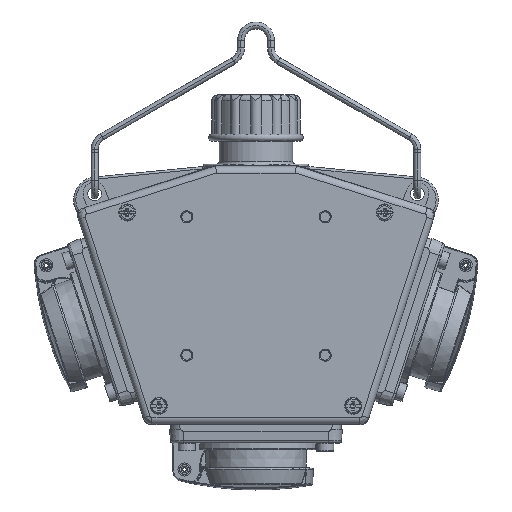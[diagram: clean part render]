
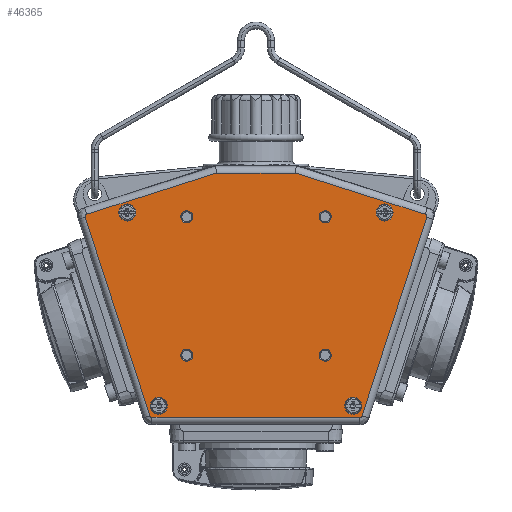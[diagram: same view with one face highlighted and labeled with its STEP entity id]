
A CAD part, top view. The second image highlights one B-rep face of the part: STEP entity #46365.
In plain terms, the highlighted planar face has unit normal (0, 0, 1).
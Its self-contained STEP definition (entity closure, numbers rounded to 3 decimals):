
#4668=DIRECTION('',(-0.953,-0.303,0.));
#4669=VECTOR('',#4668,59.119);
#4670=CARTESIAN_POINT('',(-17.035,42.94,47.5));
#4671=LINE('2357',#4670,#4669);
#4675=DIRECTION('',(-1.,0.,0.));
#4676=VECTOR('',#4675,34.069);
#4677=CARTESIAN_POINT('',(17.035,42.94,47.5));
#4678=LINE('2376',#4677,#4676);
#4682=DIRECTION('',(-0.953,0.303,0.));
#4683=VECTOR('',#4682,59.119);
#4684=CARTESIAN_POINT('',(73.376,25.031,47.5));
#4685=LINE('2374',#4684,#4683);
#4689=CARTESIAN_POINT('',(73.073,24.078,47.5));
#4690=DIRECTION('',(0.,0.,1.));
#4691=DIRECTION('',(0.951,-0.309,0.));
#4692=AXIS2_PLACEMENT_3D('',#4689,#4690,#4691);
#4697=DIRECTION('',(0.309,0.951,0.));
#4698=VECTOR('',#4697,90.568);
#4699=CARTESIAN_POINT('',(46.045,-62.369,47.5));
#4700=LINE('2369',#4699,#4698);
#4704=CARTESIAN_POINT('',(45.094,-62.06,47.5));
#4705=DIRECTION('',(0.,0.,1.));
#4706=DIRECTION('',(0.,-1.,0.));
#4707=AXIS2_PLACEMENT_3D('',#4704,#4705,#4706);
#4712=DIRECTION('',(1.,0.,0.));
#4713=VECTOR('',#4712,90.187);
#4714=CARTESIAN_POINT('',(-45.094,-63.06,47.5));
#4715=LINE('2365',#4714,#4713);
#4719=CARTESIAN_POINT('',(-45.094,-62.06,47.5));
#4720=DIRECTION('',(0.,0.,1.));
#4721=DIRECTION('',(-0.951,-0.309,0.));
#4722=AXIS2_PLACEMENT_3D('',#4719,#4720,#4721);
#4727=DIRECTION('',(0.309,-0.951,0.));
#4728=VECTOR('',#4727,90.568);
#4729=CARTESIAN_POINT('',(-74.024,23.769,47.5));
#4730=LINE('2361',#4729,#4728);
#4734=CARTESIAN_POINT('',(-73.073,24.078,47.5));
#4735=DIRECTION('',(0.,0.,1.));
#4736=DIRECTION('',(-0.303,0.953,0.));
#4737=AXIS2_PLACEMENT_3D('',#4734,#4735,#4736);
#4742=CARTESIAN_POINT('',(55.764,25.82,47.5));
#4743=DIRECTION('',(0.,0.,1.));
#4744=DIRECTION('',(1.,0.,0.));
#4745=AXIS2_PLACEMENT_3D('',#4742,#4743,#4744);
#4750=CARTESIAN_POINT('',(55.764,25.82,47.5));
#4751=DIRECTION('',(0.,0.,1.));
#4752=DIRECTION('',(-1.,0.,0.));
#4753=AXIS2_PLACEMENT_3D('',#4750,#4751,#4752);
#4758=CARTESIAN_POINT('',(42.185,-58.06,47.5));
#4759=DIRECTION('',(0.,0.,1.));
#4760=DIRECTION('',(1.,0.,0.));
#4761=AXIS2_PLACEMENT_3D('',#4758,#4759,#4760);
#4766=CARTESIAN_POINT('',(42.185,-58.06,47.5));
#4767=DIRECTION('',(0.,0.,1.));
#4768=DIRECTION('',(-1.,0.,0.));
#4769=AXIS2_PLACEMENT_3D('',#4766,#4767,#4768);
#4774=CARTESIAN_POINT('',(-42.185,-58.06,47.5));
#4775=DIRECTION('',(0.,0.,1.));
#4776=DIRECTION('',(1.,0.,0.));
#4777=AXIS2_PLACEMENT_3D('',#4774,#4775,#4776);
#4782=CARTESIAN_POINT('',(-42.185,-58.06,47.5));
#4783=DIRECTION('',(0.,0.,1.));
#4784=DIRECTION('',(-1.,0.,0.));
#4785=AXIS2_PLACEMENT_3D('',#4782,#4783,#4784);
#4790=CARTESIAN_POINT('',(-55.764,25.82,47.5));
#4791=DIRECTION('',(0.,0.,1.));
#4792=DIRECTION('',(1.,0.,0.));
#4793=AXIS2_PLACEMENT_3D('',#4790,#4791,#4792);
#4798=CARTESIAN_POINT('',(-55.764,25.82,47.5));
#4799=DIRECTION('',(0.,0.,1.));
#4800=DIRECTION('',(-1.,0.,0.));
#4801=AXIS2_PLACEMENT_3D('',#4798,#4799,#4800);
#4806=CARTESIAN_POINT('',(30.,-36.06,47.5));
#4807=DIRECTION('',(0.,0.,-1.));
#4808=DIRECTION('',(1.,0.,0.));
#4809=AXIS2_PLACEMENT_3D('',#4806,#4807,#4808);
#4814=CARTESIAN_POINT('',(30.,-36.06,47.5));
#4815=DIRECTION('',(0.,0.,-1.));
#4816=DIRECTION('',(-1.,0.,0.));
#4817=AXIS2_PLACEMENT_3D('',#4814,#4815,#4816);
#4822=CARTESIAN_POINT('',(-30.,-36.06,47.5));
#4823=DIRECTION('',(0.,0.,-1.));
#4824=DIRECTION('',(1.,0.,0.));
#4825=AXIS2_PLACEMENT_3D('',#4822,#4823,#4824);
#4830=CARTESIAN_POINT('',(-30.,-36.06,47.5));
#4831=DIRECTION('',(0.,0.,-1.));
#4832=DIRECTION('',(-1.,0.,0.));
#4833=AXIS2_PLACEMENT_3D('',#4830,#4831,#4832);
#4838=CARTESIAN_POINT('',(-30.,23.94,47.5));
#4839=DIRECTION('',(0.,0.,-1.));
#4840=DIRECTION('',(1.,0.,0.));
#4841=AXIS2_PLACEMENT_3D('',#4838,#4839,#4840);
#4846=CARTESIAN_POINT('',(-30.,23.94,47.5));
#4847=DIRECTION('',(0.,0.,-1.));
#4848=DIRECTION('',(-1.,0.,0.));
#4849=AXIS2_PLACEMENT_3D('',#4846,#4847,#4848);
#4854=CARTESIAN_POINT('',(30.,23.94,47.5));
#4855=DIRECTION('',(0.,0.,-1.));
#4856=DIRECTION('',(1.,0.,0.));
#4857=AXIS2_PLACEMENT_3D('',#4854,#4855,#4856);
#4862=CARTESIAN_POINT('',(30.,23.94,47.5));
#4863=DIRECTION('',(0.,0.,-1.));
#4864=DIRECTION('',(-1.,0.,0.));
#4865=AXIS2_PLACEMENT_3D('',#4862,#4863,#4864);
#37814=CARTESIAN_POINT('',(59.464,25.82,47.5));
#37815=CARTESIAN_POINT('',(52.064,25.82,47.5));
#37816=VERTEX_POINT('',#37814);
#37817=VERTEX_POINT('',#37815);
#37818=CARTESIAN_POINT('',(45.885,-58.06,47.5));
#37819=CARTESIAN_POINT('',(38.485,-58.06,47.5));
#37820=VERTEX_POINT('',#37818);
#37821=VERTEX_POINT('',#37819);
#37822=CARTESIAN_POINT('',(-38.485,-58.06,47.5));
#37823=CARTESIAN_POINT('',(-45.885,-58.06,47.5));
#37824=VERTEX_POINT('',#37822);
#37825=VERTEX_POINT('',#37823);
#37826=CARTESIAN_POINT('',(-52.064,25.82,47.5));
#37827=CARTESIAN_POINT('',(-59.464,25.82,47.5));
#37828=VERTEX_POINT('',#37826);
#37829=VERTEX_POINT('',#37827);
#37830=CARTESIAN_POINT('',(32.65,-36.06,47.5));
#37831=CARTESIAN_POINT('',(27.35,-36.06,47.5));
#37832=VERTEX_POINT('',#37830);
#37833=VERTEX_POINT('',#37831);
#37838=CARTESIAN_POINT('',(-27.35,-36.06,47.5));
#37839=CARTESIAN_POINT('',(-32.65,-36.06,47.5));
#37840=VERTEX_POINT('',#37838);
#37841=VERTEX_POINT('',#37839);
#37846=CARTESIAN_POINT('',(-27.35,23.94,47.5));
#37847=CARTESIAN_POINT('',(-32.65,23.94,47.5));
#37848=VERTEX_POINT('',#37846);
#37849=VERTEX_POINT('',#37847);
#37854=CARTESIAN_POINT('',(32.65,23.94,47.5));
#37855=CARTESIAN_POINT('',(27.35,23.94,47.5));
#37856=VERTEX_POINT('',#37854);
#37857=VERTEX_POINT('',#37855);
#37862=CARTESIAN_POINT('',(-17.035,42.94,47.5));
#37863=CARTESIAN_POINT('',(-73.376,25.031,47.5));
#37864=VERTEX_POINT('',#37862);
#37865=VERTEX_POINT('',#37863);
#37870=CARTESIAN_POINT('',(-74.024,23.769,47.5));
#37871=VERTEX_POINT('',#37870);
#37874=CARTESIAN_POINT('',(-46.045,-62.369,47.5));
#37875=VERTEX_POINT('',#37874);
#37878=CARTESIAN_POINT('',(-45.094,-63.06,47.5));
#37879=VERTEX_POINT('',#37878);
#37882=CARTESIAN_POINT('',(45.094,-63.06,47.5));
#37883=VERTEX_POINT('',#37882);
#37886=CARTESIAN_POINT('',(46.045,-62.369,47.5));
#37887=VERTEX_POINT('',#37886);
#37890=CARTESIAN_POINT('',(74.024,23.769,47.5));
#37891=VERTEX_POINT('',#37890);
#37894=CARTESIAN_POINT('',(73.376,25.031,47.5));
#37895=VERTEX_POINT('',#37894);
#37900=CARTESIAN_POINT('',(17.035,42.94,47.5));
#37901=VERTEX_POINT('',#37900);
#46291=CARTESIAN_POINT('',(0.,0.,47.5));
#46292=DIRECTION('',(0.,0.,1.));
#46293=DIRECTION('',(1.,0.,0.));
#46294=AXIS2_PLACEMENT_3D('',#46291,#46292,#46293);
#46295=PLANE('214',#46294);
#46297=ORIENTED_EDGE('2357',*,*,#46296,.F.);
#46299=ORIENTED_EDGE('2376',*,*,#46298,.F.);
#46301=ORIENTED_EDGE('2374',*,*,#46300,.F.);
#46303=ORIENTED_EDGE('2371',*,*,#46302,.F.);
#46305=ORIENTED_EDGE('2369',*,*,#46304,.F.);
#46306=ORIENTED_EDGE('2367',*,*,#46269,.F.);
#46308=ORIENTED_EDGE('2365',*,*,#46307,.F.);
#46310=ORIENTED_EDGE('2363',*,*,#46309,.F.);
#46312=ORIENTED_EDGE('2361',*,*,#46311,.F.);
#46314=ORIENTED_EDGE('2359',*,*,#46313,.F.);
#46315=EDGE_LOOP('214',(#46297,#46299,#46301,#46303,#46305,#46306,#46308,#46310,
#46312,#46314));
#46316=FACE_OUTER_BOUND('214',#46315,.F.);
#46318=ORIENTED_EDGE('2317',*,*,#46317,.T.);
#46320=ORIENTED_EDGE('2318',*,*,#46319,.T.);
#46321=EDGE_LOOP('214',(#46318,#46320));
#46322=FACE_BOUND('214',#46321,.F.);
#46324=ORIENTED_EDGE('2319',*,*,#46323,.T.);
#46326=ORIENTED_EDGE('2320',*,*,#46325,.T.);
#46327=EDGE_LOOP('214',(#46324,#46326));
#46328=FACE_BOUND('214',#46327,.F.);
#46330=ORIENTED_EDGE('2321',*,*,#46329,.T.);
#46332=ORIENTED_EDGE('2322',*,*,#46331,.T.);
#46333=EDGE_LOOP('214',(#46330,#46332));
#46334=FACE_BOUND('214',#46333,.F.);
#46336=ORIENTED_EDGE('2323',*,*,#46335,.T.);
#46338=ORIENTED_EDGE('2324',*,*,#46337,.T.);
#46339=EDGE_LOOP('214',(#46336,#46338));
#46340=FACE_BOUND('214',#46339,.F.);
#46342=ORIENTED_EDGE('2333',*,*,#46341,.F.);
#46344=ORIENTED_EDGE('2335',*,*,#46343,.F.);
#46345=EDGE_LOOP('214',(#46342,#46344));
#46346=FACE_BOUND('214',#46345,.F.);
#46348=ORIENTED_EDGE('2337',*,*,#46347,.F.);
#46350=ORIENTED_EDGE('2339',*,*,#46349,.F.);
#46351=EDGE_LOOP('214',(#46348,#46350));
#46352=FACE_BOUND('214',#46351,.F.);
#46354=ORIENTED_EDGE('2341',*,*,#46353,.F.);
#46356=ORIENTED_EDGE('2343',*,*,#46355,.F.);
#46357=EDGE_LOOP('214',(#46354,#46356));
#46358=FACE_BOUND('214',#46357,.F.);
#46360=ORIENTED_EDGE('2345',*,*,#46359,.F.);
#46362=ORIENTED_EDGE('2347',*,*,#46361,.F.);
#46363=EDGE_LOOP('214',(#46360,#46362));
#46364=FACE_BOUND('214',#46363,.F.);
#4693=CIRCLE('2371',#4692,1.);
#4708=CIRCLE('2367',#4707,1.);
#4723=CIRCLE('2363',#4722,1.);
#4738=CIRCLE('2359',#4737,1.);
#4746=CIRCLE('2317',#4745,3.7);
#4754=CIRCLE('2318',#4753,3.7);
#4762=CIRCLE('2319',#4761,3.7);
#4770=CIRCLE('2320',#4769,3.7);
#4778=CIRCLE('2321',#4777,3.7);
#4786=CIRCLE('2322',#4785,3.7);
#4794=CIRCLE('2323',#4793,3.7);
#4802=CIRCLE('2324',#4801,3.7);
#4810=CIRCLE('2333',#4809,2.65);
#4818=CIRCLE('2335',#4817,2.65);
#4826=CIRCLE('2337',#4825,2.65);
#4834=CIRCLE('2339',#4833,2.65);
#4842=CIRCLE('2341',#4841,2.65);
#4850=CIRCLE('2343',#4849,2.65);
#4858=CIRCLE('2345',#4857,2.65);
#4866=CIRCLE('2347',#4865,2.65);
#46269=EDGE_CURVE('2367',#37883,#37887,#4708,.T.);
#46296=EDGE_CURVE('2357',#37864,#37865,#4671,.T.);
#46298=EDGE_CURVE('2376',#37901,#37864,#4678,.T.);
#46300=EDGE_CURVE('2374',#37895,#37901,#4685,.T.);
#46302=EDGE_CURVE('2371',#37891,#37895,#4693,.T.);
#46304=EDGE_CURVE('2369',#37887,#37891,#4700,.T.);
#46307=EDGE_CURVE('2365',#37879,#37883,#4715,.T.);
#46309=EDGE_CURVE('2363',#37875,#37879,#4723,.T.);
#46311=EDGE_CURVE('2361',#37871,#37875,#4730,.T.);
#46313=EDGE_CURVE('2359',#37865,#37871,#4738,.T.);
#46317=EDGE_CURVE('2317',#37816,#37817,#4746,.T.);
#46319=EDGE_CURVE('2318',#37817,#37816,#4754,.T.);
#46323=EDGE_CURVE('2319',#37820,#37821,#4762,.T.);
#46325=EDGE_CURVE('2320',#37821,#37820,#4770,.T.);
#46329=EDGE_CURVE('2321',#37824,#37825,#4778,.T.);
#46331=EDGE_CURVE('2322',#37825,#37824,#4786,.T.);
#46335=EDGE_CURVE('2323',#37828,#37829,#4794,.T.);
#46337=EDGE_CURVE('2324',#37829,#37828,#4802,.T.);
#46341=EDGE_CURVE('2333',#37832,#37833,#4810,.T.);
#46343=EDGE_CURVE('2335',#37833,#37832,#4818,.T.);
#46347=EDGE_CURVE('2337',#37840,#37841,#4826,.T.);
#46349=EDGE_CURVE('2339',#37841,#37840,#4834,.T.);
#46353=EDGE_CURVE('2341',#37848,#37849,#4842,.T.);
#46355=EDGE_CURVE('2343',#37849,#37848,#4850,.T.);
#46359=EDGE_CURVE('2345',#37856,#37857,#4858,.T.);
#46361=EDGE_CURVE('2347',#37857,#37856,#4866,.T.);
#46365=ADVANCED_FACE('214',(#46316,#46322,#46328,#46334,#46340,#46346,#46352,
#46358,#46364),#46295,.T.);
